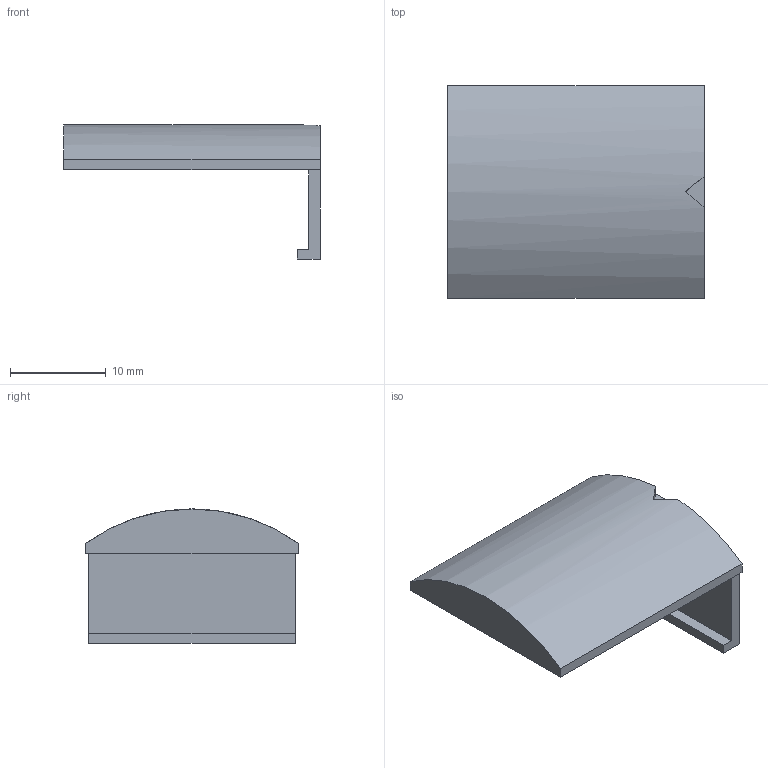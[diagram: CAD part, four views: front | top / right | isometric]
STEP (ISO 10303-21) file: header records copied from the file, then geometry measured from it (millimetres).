
FILE_DESCRIPTION(('SkyG Speed 90B - revision C6B-5 - 2026-10-08','HG-gps-carrier'),'2;1');
FILE_NAME('HG-gps-carrier_C6B-5','2026-10-08T10:12:28',('Author'),( 'Open CASCADE'),'Open CASCADE STEP processor 7.9','Open CASCADE 7.9' ,'Unknown');
FILE_SCHEMA(('AUTOMOTIVE_DESIGN { 1 0 10303 214 1 1 1 1 }'));
Length unit declared in the file: millimetre
Products named in the file (1): HG-gps-carrier C6B-5
Bounding box: 26.8 x 22.23 x 14 mm (x, y, z)
Volume: 2376.1 mm3; surface area: 1928.7 mm2
Topology: 1 solids, 1 shells, 15 faces, 39 edges, 26 vertices
Faces by surface type: plane 14, cylinder 1
Entity records: 970 total; most frequent: CARTESIAN_POINT 189, DIRECTION 137, LINE 91, VECTOR 91, ORIENTED_EDGE 78, PCURVE 78, DEFINITIONAL_REPRESENTATION 78, EDGE_CURVE 39
